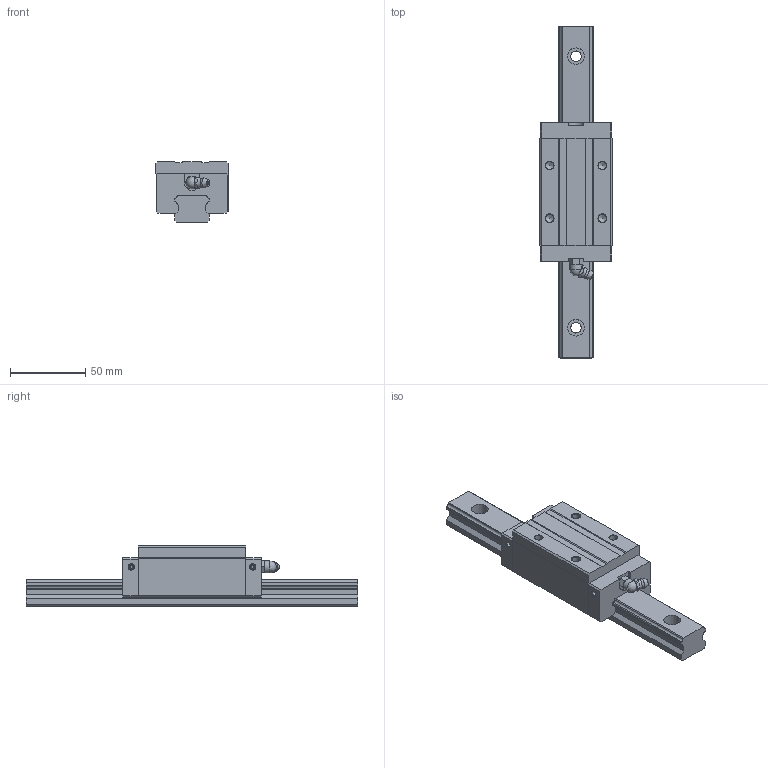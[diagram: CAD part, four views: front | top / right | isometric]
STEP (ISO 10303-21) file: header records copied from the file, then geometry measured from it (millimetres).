
FILE_DESCRIPTION(/* description */ (''),/* implementation_level */ '2;1');
FILE_NAME(/* name */ 'SME25-SA',/* time_stamp */ '2008-10-06T09:45:08+08:00',/* author */ (''),/* organization */ (''),/* preprocessor_version */ 'ST-DEVELOPER v11',/* originating_system */ 'UGS - NX 5.0',/* authorisation */ '');
FILE_SCHEMA (('AUTOMOTIVE_DESIGN { 1 0 10303 214 1 1 1 1 }'));
Length unit declared in the file: millimetre
Products named in the file (1): SME25SA_UG
Bounding box: 48 x 220 x 40 mm (x, y, z)
Volume: 195750.6 mm3; surface area: 42264.5 mm2
Topology: 3 solids, 3 shells, 175 faces, 455 edges, 300 vertices
Faces by surface type: plane 103, cylinder 49, cone 13, torus 7, sphere 2, bspline 1
Full cylindrical faces by diameter (mm): 2 x4, 3.3 x4, 5.3 x4, 6.5 x2, 7 x4, 8 x1, 11 x4
Entity records: 5397 total; most frequent: CARTESIAN_POINT 1026, DIRECTION 848, ORIENTED_EDGE 790, EDGE_CURVE 395, AXIS2_PLACEMENT_3D 298, VERTEX_POINT 284, LINE 252, VECTOR 252
